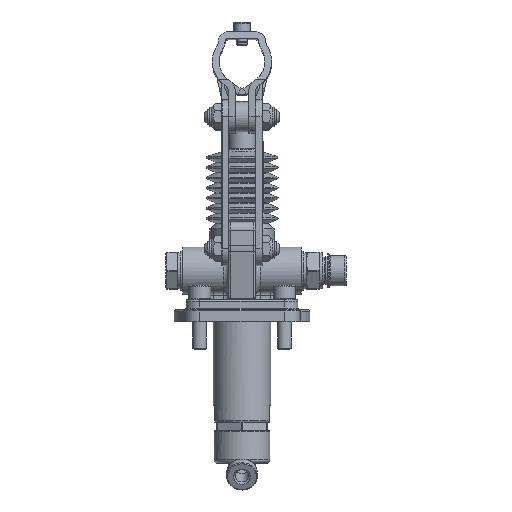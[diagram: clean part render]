
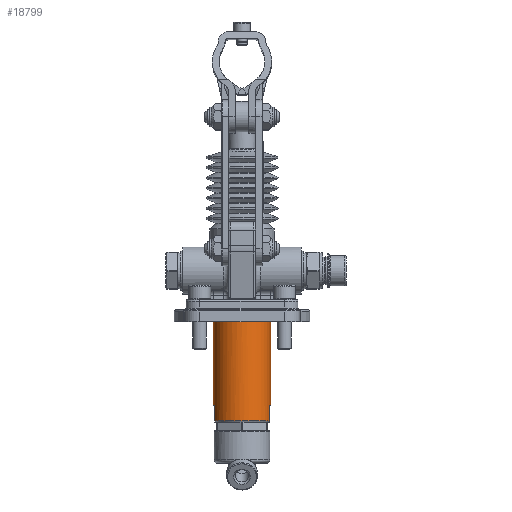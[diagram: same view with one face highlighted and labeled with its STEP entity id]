
A CAD part, left-side view. The second image highlights one B-rep face of the part: STEP entity #18799.
In plain terms, the highlighted cylindrical face has radius 17 mm (diameter 34 mm), a full revolution.
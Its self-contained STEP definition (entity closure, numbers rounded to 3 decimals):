
#18464=CARTESIAN_POINT('',(64.745,50.0,-50.5));
#18465=VERTEX_POINT('',#18464);
#18466=CARTESIAN_POINT('',(53.255,50.0,-50.5));
#18467=VERTEX_POINT('',#18466);
#18468=CARTESIAN_POINT('',(59.,34.0,-50.5));
#18469=DIRECTION('',(0.0,0.0,1.0));
#18470=DIRECTION('',(-1.0,0.0,0.0));
#18471=AXIS2_PLACEMENT_3D('',#18468,#18469,#18470);
#18472=CIRCLE('',#18471,17.0);
#18473=EDGE_CURVE('',#18465,#18467,#18472,.T.);
#18489=CARTESIAN_POINT('',(53.255,50.0,-59.5));
#18490=VERTEX_POINT('',#18489);
#18504=CARTESIAN_POINT('',(53.255,50.0,-50.5));
#18505=DIRECTION('',(0.0,0.0,-1.0));
#18506=VECTOR('',#18505,9.0);
#18507=LINE('',#18504,#18506);
#18508=EDGE_CURVE('',#18467,#18490,#18507,.T.);
#18511=CARTESIAN_POINT('',(64.745,50.0,-59.5));
#18512=VERTEX_POINT('',#18511);
#18513=CARTESIAN_POINT('',(64.745,50.0,-59.5));
#18514=DIRECTION('',(0.0,0.0,1.0));
#18515=VECTOR('',#18514,9.0);
#18516=LINE('',#18513,#18515);
#18517=EDGE_CURVE('',#18512,#18465,#18516,.T.);
#18541=CARTESIAN_POINT('',(64.745,18.,-50.5));
#18542=VERTEX_POINT('',#18541);
#18543=CARTESIAN_POINT('',(64.745,18.,-59.5));
#18544=VERTEX_POINT('',#18543);
#18545=CARTESIAN_POINT('',(64.745,18.,-50.5));
#18546=DIRECTION('',(0.0,0.0,-1.0));
#18547=VECTOR('',#18546,9.0);
#18548=LINE('',#18545,#18547);
#18549=EDGE_CURVE('',#18542,#18544,#18548,.T.);
#18551=CARTESIAN_POINT('',(53.255,18.,-50.5));
#18552=VERTEX_POINT('',#18551);
#18559=CARTESIAN_POINT('',(53.255,18.,-59.5));
#18560=VERTEX_POINT('',#18559);
#18561=CARTESIAN_POINT('',(53.255,18.,-59.5));
#18562=DIRECTION('',(0.0,0.0,1.0));
#18563=VECTOR('',#18562,9.0);
#18564=LINE('',#18561,#18563);
#18565=EDGE_CURVE('',#18560,#18552,#18564,.T.);
#18602=CARTESIAN_POINT('',(59.,34.0,-50.5));
#18603=DIRECTION('',(0.0,0.0,1.0));
#18604=DIRECTION('',(-1.0,0.0,0.0));
#18605=AXIS2_PLACEMENT_3D('',#18602,#18603,#18604);
#18606=CIRCLE('',#18605,17.0);
#18607=EDGE_CURVE('',#18552,#18542,#18606,.T.);
#18619=CARTESIAN_POINT('',(59.,34.0,-59.5));
#18620=DIRECTION('',(0.0,0.0,-1.0));
#18621=DIRECTION('',(-1.0,0.0,0.0));
#18622=AXIS2_PLACEMENT_3D('',#18619,#18620,#18621);
#18623=CIRCLE('',#18622,17.0);
#18624=EDGE_CURVE('',#18512,#18544,#18623,.T.);
#18763=CARTESIAN_POINT('',(59.,34.0,-59.5));
#18764=DIRECTION('',(0.0,0.0,-1.0));
#18765=DIRECTION('',(-1.0,0.0,0.0));
#18766=AXIS2_PLACEMENT_3D('',#18763,#18764,#18765);
#18767=CIRCLE('',#18766,17.0);
#18768=EDGE_CURVE('',#18560,#18490,#18767,.T.);
#18773=CARTESIAN_POINT('',(59.,34.0,-60.5));
#18774=DIRECTION('',(0.0,0.0,1.0));
#18775=DIRECTION('',(-1.0,0.0,0.0));
#18776=AXIS2_PLACEMENT_3D('',#18773,#18774,#18775);
#18777=CYLINDRICAL_SURFACE('',#18776,17.0);
#18778=CARTESIAN_POINT('',(76.,34.0,1.25));
#18779=VERTEX_POINT('',#18778);
#18780=CARTESIAN_POINT('',(59.,34.0,1.25));
#18781=DIRECTION('',(0.0,0.0,-1.0));
#18782=DIRECTION('',(-1.0,0.0,0.0));
#18783=AXIS2_PLACEMENT_3D('',#18780,#18781,#18782);
#18784=CIRCLE('',#18783,17.0);
#18785=EDGE_CURVE('',#18779,#18779,#18784,.T.);
#18786=ORIENTED_EDGE('',*,*,#18785,.T.);
#18787=EDGE_LOOP('',(#18786));
#18788=FACE_OUTER_BOUND('',#18787,.T.);
#18789=ORIENTED_EDGE('',*,*,#18508,.T.);
#18790=ORIENTED_EDGE('',*,*,#18768,.F.);
#18791=ORIENTED_EDGE('',*,*,#18565,.T.);
#18792=ORIENTED_EDGE('',*,*,#18607,.T.);
#18793=ORIENTED_EDGE('',*,*,#18549,.T.);
#18794=ORIENTED_EDGE('',*,*,#18624,.F.);
#18795=ORIENTED_EDGE('',*,*,#18517,.T.);
#18796=ORIENTED_EDGE('',*,*,#18473,.T.);
#18797=EDGE_LOOP('',(#18789,#18790,#18791,#18792,#18793,#18794,#18795,#18796));
#18798=FACE_BOUND('',#18797,.T.);
#18799=ADVANCED_FACE('',(#18788,#18798),#18777,.T.);
